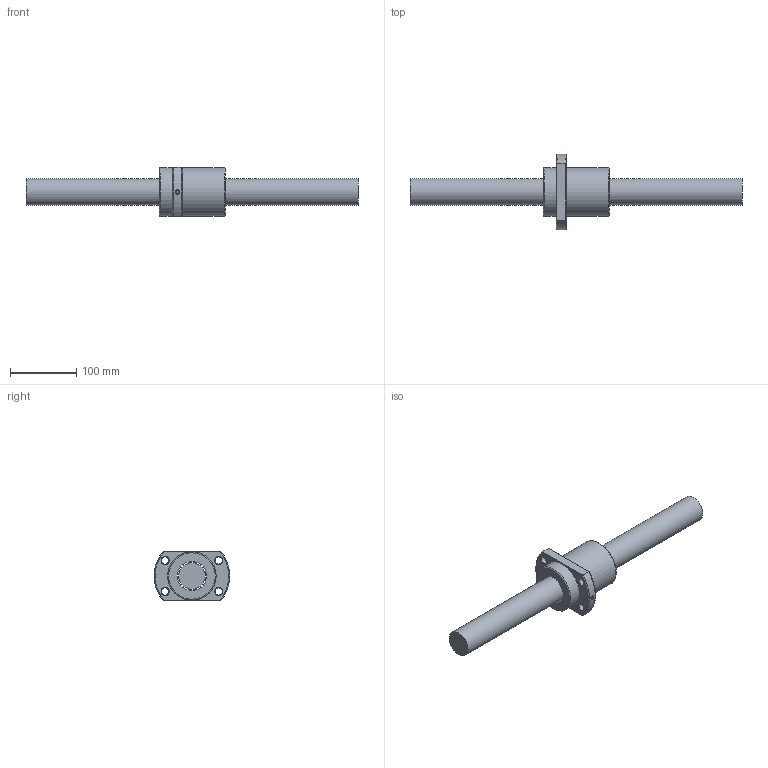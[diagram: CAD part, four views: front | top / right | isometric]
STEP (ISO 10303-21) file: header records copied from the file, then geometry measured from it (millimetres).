
FILE_DESCRIPTION (( 'STEP AP203' ), '1' );
FILE_NAME ('SFYA04040-3.6.step', '2024-05-22T07:52:24', ( '' ), ( '' ), 'SwSTEP 2.0', 'SolidWorks 2022', '' );
FILE_SCHEMA (( 'CONFIG_CONTROL_DESIGN' ));
Length unit declared in the file: millimetre
Products named in the file (1): SFYA04040-3.6
Bounding box: 500 x 113.82 x 75 mm (x, y, z)
Volume: 942360.3 mm3; surface area: 117057.6 mm2
Topology: 2 solids, 2 shells, 49 faces, 118 edges, 75 vertices
Faces by surface type: cylinder 17, plane 13, cone 9, torus 6, bspline 4
Full cylindrical faces by diameter (mm): 4 x1, 5 x5, 11 x4, 40 x1, 43.8 x1, 73 x2
Entity records: 3019 total; most frequent: CARTESIAN_POINT 2058, DIRECTION 170, ORIENTED_EDGE 156, EDGE_LOOP 80, EDGE_CURVE 78, AXIS2_PLACEMENT_3D 77, VERTEX_POINT 62, FACE_OUTER_BOUND 57
